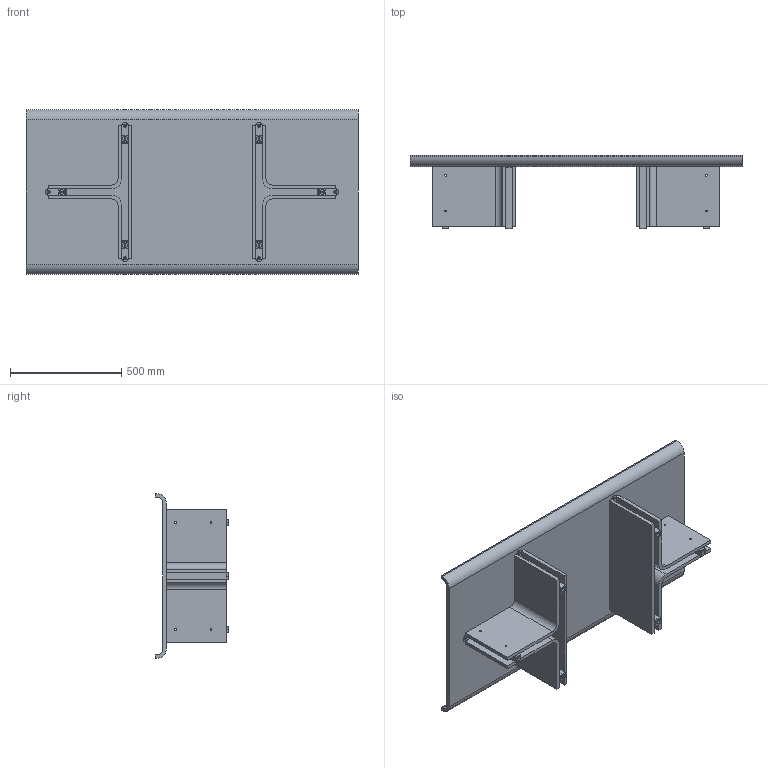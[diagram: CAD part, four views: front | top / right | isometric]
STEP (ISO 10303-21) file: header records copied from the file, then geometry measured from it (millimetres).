
FILE_DESCRIPTION (( 'STEP AP214' ), '1' );
FILE_NAME ('Conrad Lounge Table.STEP', '2026-05-28T13:22:36', ( '' ), ( '' ), 'SwSTEP 2.0', 'SolidWorks 2024', '' );
FILE_SCHEMA (( 'AUTOMOTIVE_DESIGN' ));
Length unit declared in the file: millimetre
Products named in the file (1): Conrad Lounge Table
Bounding box: 1490 x 331 x 740 mm (x, y, z)
Volume: 35247318.1 mm3; surface area: 4752638.7 mm2
Topology: 19 solids, 19 shells, 538 faces, 1284 edges, 844 vertices
Faces by surface type: cylinder 298, plane 204, cone 36
Entity records: 16213 total; most frequent: DIRECTION 2994, CARTESIAN_POINT 2667, ORIENTED_EDGE 2568, EDGE_CURVE 1284, AXIS2_PLACEMENT_3D 1171, VERTEX_POINT 844, EDGE_LOOP 706, LINE 652
